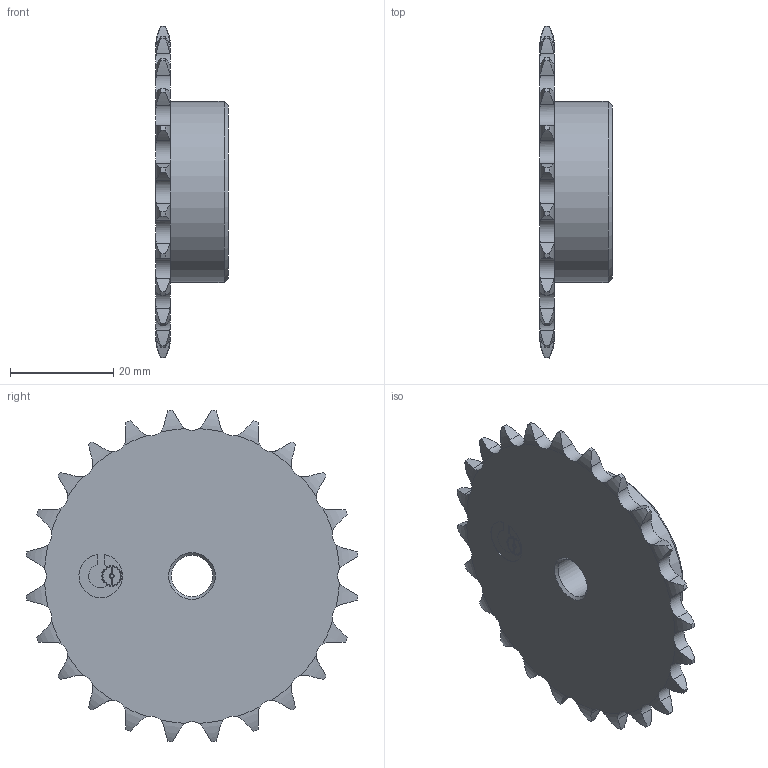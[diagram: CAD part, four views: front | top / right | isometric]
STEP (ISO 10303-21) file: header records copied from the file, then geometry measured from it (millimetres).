
FILE_DESCRIPTION(/* description */ (''),/* implementation_level */ '2;1');
FILE_NAME(/* name */ 'W:\DISEGNI LUCA SALVATAGGIO LOCALE\disegni Fabio Colombo\DISEGNI CATALOGO PIGNONI\PIGNONI ISO606\DIN8187 8x3\DIN8187 8x3 -3D\IPT\10108024.stp',/* time_stamp */ '2022-09-20T09:55:22+02:00',/* author */ ('luca.leone'),/* organization */ (''),/* preprocessor_version */ 'ST-DEVELOPER v19',/* originating_system */ 'Autodesk Inventor 2023',/* authorisation */ '');
FILE_SCHEMA (('AUTOMOTIVE_DESIGN { 1 0 10303 214 3 1 1 }'));
Length unit declared in the file: millimetre
Products named in the file (1): 10108024
Bounding box: 14 x 64.15 x 64.15 mm (x, y, z)
Volume: 17689.8 mm3; surface area: 7642.9 mm2
Topology: 1 solids, 1 shells, 244 faces, 709 edges, 471 vertices
Faces by surface type: cylinder 140, plane 53, torus 48, cone 3
Full cylindrical faces by diameter (mm): 0.695 x1, 8 x1, 35 x1
Entity records: 8699 total; most frequent: CARTESIAN_POINT 2353, ORIENTED_EDGE 1418, DIRECTION 1242, EDGE_CURVE 709, AXIS2_PLACEMENT_3D 480, VERTEX_POINT 471, LINE 282, VECTOR 282
